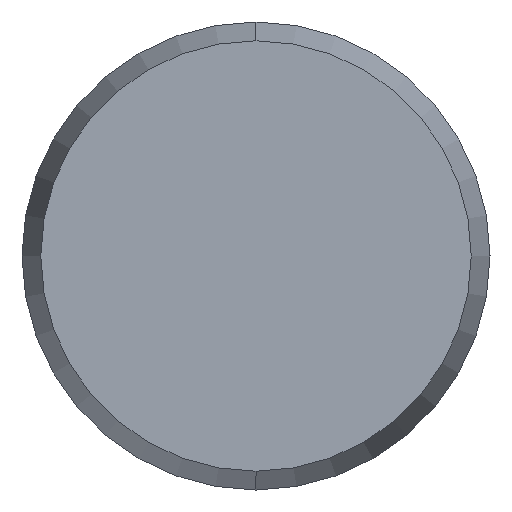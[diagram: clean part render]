
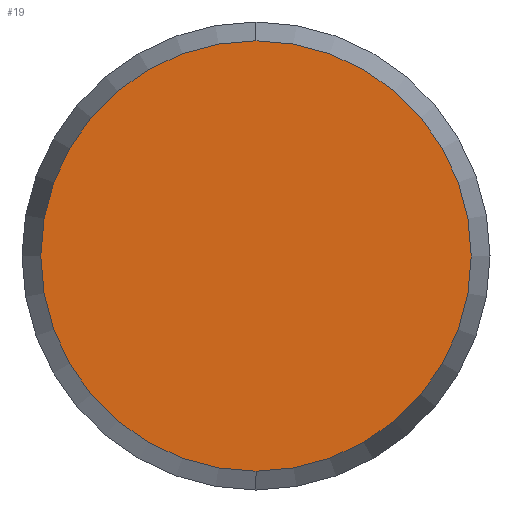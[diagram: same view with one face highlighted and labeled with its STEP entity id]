
A CAD part, left-side view. The second image highlights one B-rep face of the part: STEP entity #19.
In plain terms, the highlighted planar face has unit normal (-1, 0, 0).
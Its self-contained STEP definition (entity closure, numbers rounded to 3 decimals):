
#4 = DIRECTION ( 'NONE',  ( 0., 0., -1. ) ) ;
#5 = DIRECTION ( 'NONE',  ( 1., 0., 0. ) ) ;
#6 = CARTESIAN_POINT ( 'NONE',  ( -10., 0., 0. ) ) ;
#7 = AXIS2_PLACEMENT_3D ( 'NONE', #6, #5, #4 ) ;
#8 = CIRCLE ( 'NONE', #7, 3.678 ) ;
#10 = DIRECTION ( 'NONE',  ( 0., 0., -1. ) ) ;
#11 = DIRECTION ( 'NONE',  ( 1., 0., 0. ) ) ;
#12 = CARTESIAN_POINT ( 'NONE',  ( -10., 0., 0. ) ) ;
#13 = AXIS2_PLACEMENT_3D ( 'NONE', #12, #11, #10 ) ;
#14 = PLANE ( 'NONE',  #13 ) ;
#15 = FACE_OUTER_BOUND ( 'NONE', #20, .T. ) ;
#19 = ADVANCED_FACE ( 'NONE', ( #15 ), #14, .F. ) ;
#20 = EDGE_LOOP ( 'NONE', ( #21, #22 ) ) ;
#21 = ORIENTED_EDGE ( 'NONE', *, *, #70, .F. ) ;
#22 = ORIENTED_EDGE ( 'NONE', *, *, #24, .F. ) ;
#24 = EDGE_CURVE ( 'NONE', #72, #71, #8, .T. ) ;
#41 = CARTESIAN_POINT ( 'NONE',  ( -10., 0., -3.678 ) ) ;
#42 = CARTESIAN_POINT ( 'NONE',  ( -10., 0., 3.678 ) ) ;
#43 = DIRECTION ( 'NONE',  ( 0., 0., -1. ) ) ;
#44 = DIRECTION ( 'NONE',  ( 1., 0., 0. ) ) ;
#45 = CARTESIAN_POINT ( 'NONE',  ( -10., 0., 0. ) ) ;
#46 = AXIS2_PLACEMENT_3D ( 'NONE', #45, #44, #43 ) ;
#50 = CIRCLE ( 'NONE', #46, 3.678 ) ;
#70 = EDGE_CURVE ( 'NONE', #71, #72, #50, .T. ) ;
#71 = VERTEX_POINT ( 'NONE', #42 ) ;
#72 = VERTEX_POINT ( 'NONE', #41 ) ;
